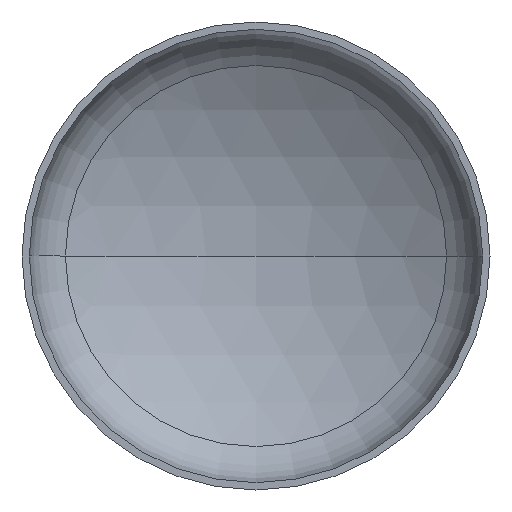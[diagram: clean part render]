
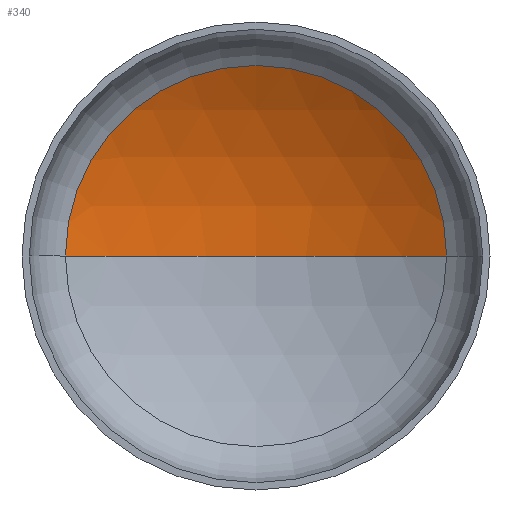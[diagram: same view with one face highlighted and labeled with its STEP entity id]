
A CAD part, front view. The second image highlights one B-rep face of the part: STEP entity #340.
In plain terms, the highlighted spherical face has radius 560 mm.
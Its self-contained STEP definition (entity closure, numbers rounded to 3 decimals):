
#1 = CARTESIAN_POINT ( 'NONE',  ( 0., -347.374, 0. ) ) ;
#11 = DIRECTION ( 'NONE',  ( 1., 0., 0. ) ) ;
#30 = AXIS2_PLACEMENT_3D ( 'NONE', #244, #58, #274 ) ;
#31 = AXIS2_PLACEMENT_3D ( 'NONE', #1, #186, #266 ) ;
#36 = AXIS2_PLACEMENT_3D ( 'NONE', #394, #221, #11 ) ;
#45 = DIRECTION ( 'NONE',  ( -1., 0., 0. ) ) ;
#50 = ORIENTED_EDGE ( 'NONE', *, *, #102, .F. ) ;
#58 = DIRECTION ( 'NONE',  ( 0., 0., 1. ) ) ;
#80 = VERTEX_POINT ( 'NONE', #185 ) ;
#87 = VERTEX_POINT ( 'NONE', #295 ) ;
#93 = EDGE_LOOP ( 'NONE', ( #50, #326, #162 ) ) ;
#95 = EDGE_CURVE ( 'NONE', #393, #80, #206, .T. ) ;
#98 = EDGE_CURVE ( 'NONE', #87, #393, #126, .T. ) ;
#102 = EDGE_CURVE ( 'NONE', #87, #80, #354, .T. ) ;
#126 = CIRCLE ( 'NONE', #31, 560. ) ;
#162 = ORIENTED_EDGE ( 'NONE', *, *, #95, .T. ) ;
#185 = CARTESIAN_POINT ( 'NONE',  ( -284.978, 134.692, 0. ) ) ;
#186 = DIRECTION ( 'NONE',  ( 0., 0., -1. ) ) ;
#201 = DIRECTION ( 'NONE',  ( 0., 0., -1. ) ) ;
#206 = CIRCLE ( 'NONE', #36, 284.978 ) ;
#221 = DIRECTION ( 'NONE',  ( 0., -1., 0. ) ) ;
#229 = FACE_OUTER_BOUND ( 'NONE', #93, .T. ) ;
#244 = CARTESIAN_POINT ( 'NONE',  ( 0., -347.374, 0. ) ) ;
#266 = DIRECTION ( 'NONE',  ( -1., 0., 0. ) ) ;
#274 = DIRECTION ( 'NONE',  ( 1., 0., 0. ) ) ;
#295 = CARTESIAN_POINT ( 'NONE',  ( 0., 212.626, 0. ) ) ;
#304 = SPHERICAL_SURFACE ( 'NONE', #395, 560. ) ;
#326 = ORIENTED_EDGE ( 'NONE', *, *, #98, .T. ) ;
#340 = ADVANCED_FACE ( 'NONE', ( #229 ), #304, .F. ) ;
#345 = CARTESIAN_POINT ( 'NONE',  ( 284.978, 134.692, 0. ) ) ;
#354 = CIRCLE ( 'NONE', #30, 560. ) ;
#364 = CARTESIAN_POINT ( 'NONE',  ( 0., -347.374, 0. ) ) ;
#393 = VERTEX_POINT ( 'NONE', #345 ) ;
#394 = CARTESIAN_POINT ( 'NONE',  ( 0., 134.692, 0. ) ) ;
#395 = AXIS2_PLACEMENT_3D ( 'NONE', #364, #201, #45 ) ;
